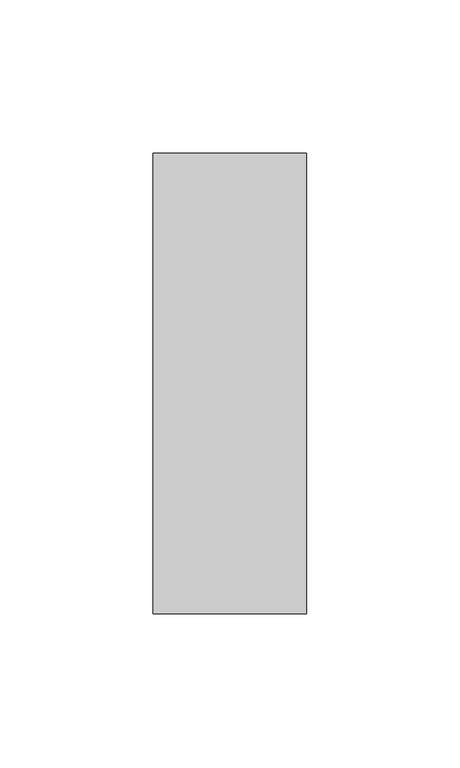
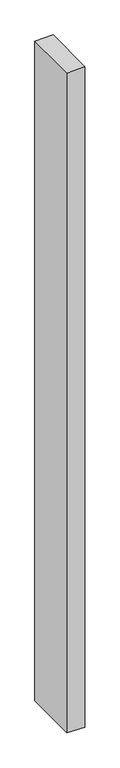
"""IFC4 building model written with IfcOpenShell, lengths in millimetres: member geometry, Прямоугольный импост : 50 x 150 мм."""

from ifc_helpers import new_model, si_unit, origin, place, context, project, spatial, faceted_brep, source, transform, mapped, element, save


def member_d5e3dce2(model_context):
    return source(origin(), model_context, "Body", "Brep", [
        faceted_brep([(-25.0, 75.0, 0.274723), (25.0, 75.0, 0.9885059), (25.0, 75.0, -1903.4155784), (-25.0, 75.0, -1902.7222616), (-25.0, -75.0, -0.9885059), (-25.0, -75.0, -1903.659913), (25.0, -75.0, -0.274723), (25.0, -75.0, -1904.3532298)], [[[0, 1, 2, 3]], [[4, 0, 3, 5]], [[6, 4, 5, 7]], [[1, 6, 7, 2]], [[1, 0, 4, 6]], [[2, 7, 5, 3]]]),
    ])


if __name__ == "__main__":
    model = new_model("IFC4")
    model_context = context("Model", 3, world=origin())
    ifc_project = project(units=[si_unit("LENGTHUNIT", "METRE", prefix="MILLI")], contexts=[model_context])
    site = spatial("IfcSite", under=ifc_project)
    building = spatial("IfcBuilding", under=site)
    placement = place(None, origin())
    member_shape = member_d5e3dce2(model_context)
    element("IfcMember", 1, ObjectType="Прямоугольный импост : 50 x 150 мм", at=placement, inside=building, context=model_context, shape_type="MappedRepresentation", body=[
        mapped(member_shape, transform((0.0, 0.0, 0.0), x_axis=(1.0, 0.0, 0.0), y_axis=(0.0, 1.0, 0.0), z_axis=(0.0, 0.0, 1.0))),
    ])
    save(model, "model.ifc")
